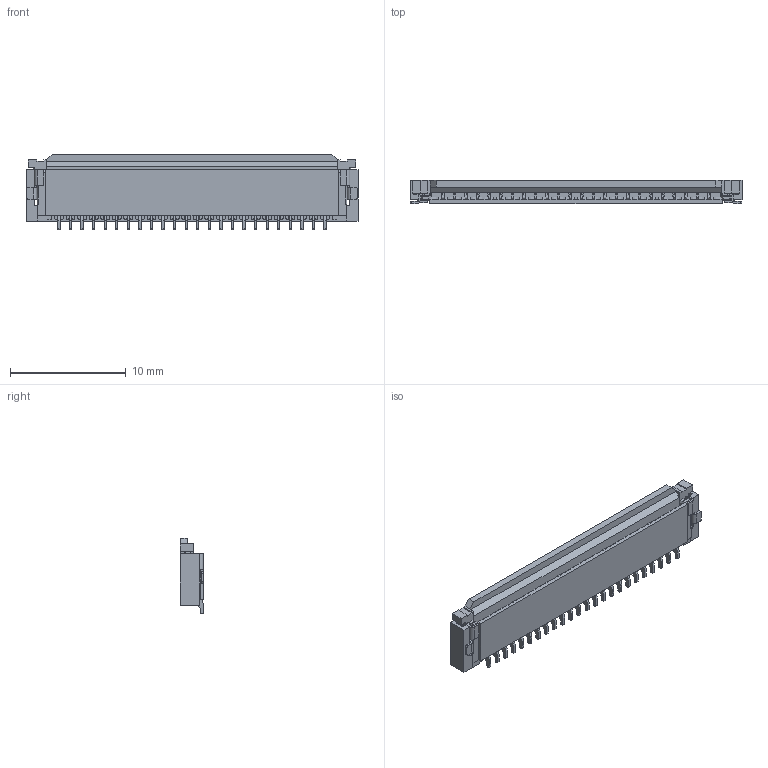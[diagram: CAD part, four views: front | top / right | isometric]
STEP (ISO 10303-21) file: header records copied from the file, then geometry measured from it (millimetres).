
FILE_DESCRIPTION((''),'2;1');
FILE_NAME('S-51504-017XX-XXX','2012-02-24T',('12104020'),(''),'PRO/ENGINEER BY PARAMETRIC TECHNOLOGY CORPORATION, 2009360','PRO/ENGINEER BY PARAMETRIC TECHNOLOGY CORPORATION, 2009360','');
FILE_SCHEMA(('CONFIG_CONTROL_DESIGN'));
Products named in the file (1): S-51504-017XX-XXX
Bounding box: 28.7 x 2 x 6.55 mm (x, y, z)
Volume: 178.7 mm3; surface area: 1145.4 mm2
Topology: 1 solids, 1 shells, 2392 faces, 8267 edges, 5503 vertices
Faces by surface type: plane 1710, cylinder 682
Entity records: 89774 total; most frequent: ORIENTED_EDGE 16534, CARTESIAN_POINT 16228, DIRECTION 14662, EDGE_CURVE 8267, VECTOR 6624, LINE 6624, VERTEX_POINT 5503, AXIS2_PLACEMENT_3D 4019
